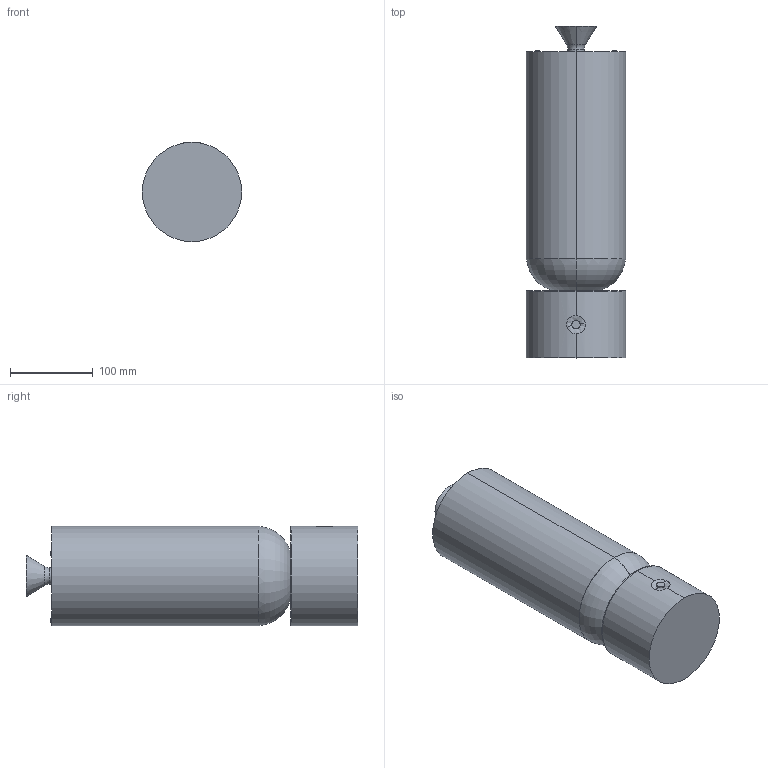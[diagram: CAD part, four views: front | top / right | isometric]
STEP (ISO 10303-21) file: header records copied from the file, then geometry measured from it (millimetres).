
FILE_DESCRIPTION (( 'STEP AP214' ), '1' );
FILE_NAME ('S1350_Sobremesa.STEP', '2025-12-15T14:25:14', ( '' ), ( '' ), 'SwSTEP 2.0', 'SolidWorks 2023', '' );
FILE_SCHEMA (( 'AUTOMOTIVE_DESIGN' ));
Length unit declared in the file: millimetre
Products named in the file (1): S1350_Sobremesa
Bounding box: 120 x 400.7 x 120 mm (x, y, z)
Volume: 1201238.8 mm3; surface area: 343408.2 mm2
Topology: 4 solids, 4 shells, 46 faces, 87 edges, 56 vertices
Faces by surface type: cylinder 20, plane 16, torus 6, bspline 2, cone 2
Entity records: 1673 total; most frequent: CARTESIAN_POINT 652, DIRECTION 229, ORIENTED_EDGE 174, AXIS2_PLACEMENT_3D 103, EDGE_CURVE 87, CIRCLE 58, VERTEX_POINT 56, EDGE_LOOP 53
